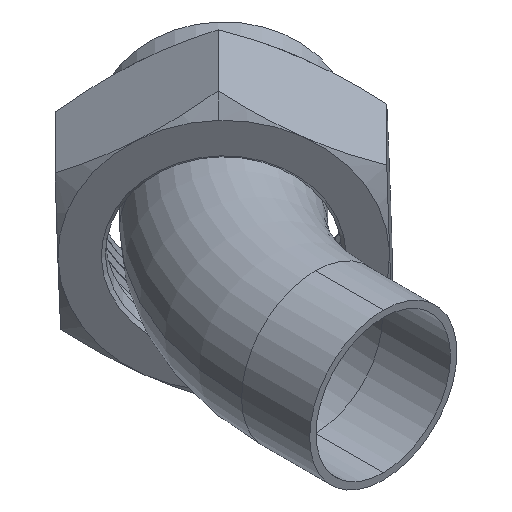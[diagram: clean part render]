
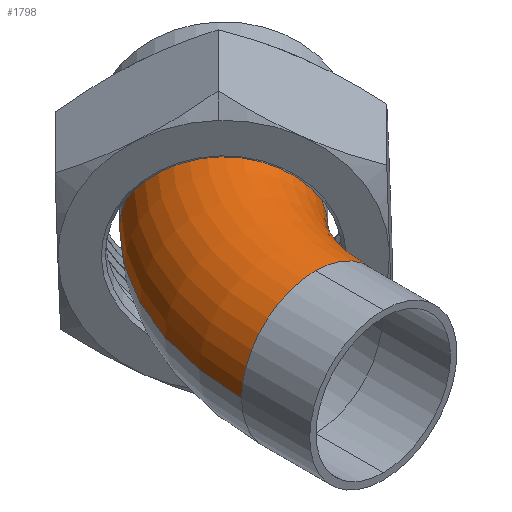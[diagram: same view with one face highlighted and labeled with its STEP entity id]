
A CAD part, isometric view. The second image highlights one B-rep face of the part: STEP entity #1798.
In plain terms, the highlighted toroidal (fillet/blend) face has major radius 57.15 mm and minor radius 19.05 mm.
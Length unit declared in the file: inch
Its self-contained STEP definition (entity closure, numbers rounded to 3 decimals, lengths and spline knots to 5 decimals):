
#40 = DIRECTION ( 'NONE',  ( 0., 1., 0. ) ) ;
#75 = ORIENTED_EDGE ( 'NONE', *, *, #999, .T. ) ;
#119 = DIRECTION ( 'NONE',  ( 0., 0., 1. ) ) ;
#167 = CARTESIAN_POINT ( 'NONE',  ( 0.12868, 2.81434, 0. ) ) ;
#208 = DIRECTION ( 'NONE',  ( 0., 0., 1. ) ) ;
#230 = AXIS2_PLACEMENT_3D ( 'NONE', #1819, #119, #2089 ) ;
#498 = DIRECTION ( 'NONE',  ( 1., 0., 0. ) ) ;
#551 = VERTEX_POINT ( 'NONE', #2331 ) ;
#768 = CIRCLE ( 'NONE', #2455, 0.75 ) ;
#802 = EDGE_CURVE ( 'NONE', #2562, #2773, #3012, .T. ) ;
#873 = EDGE_CURVE ( 'NONE', #2562, #551, #768, .T. ) ;
#899 = CARTESIAN_POINT ( 'NONE',  ( 0., 0.69302, 0. ) ) ;
#923 = ORIENTED_EDGE ( 'NONE', *, *, #954, .T. ) ;
#934 = ORIENTED_EDGE ( 'NONE', *, *, #873, .F. ) ;
#954 = EDGE_CURVE ( 'NONE', #1582, #2579, #1262, .T. ) ;
#978 = EDGE_CURVE ( 'NONE', #551, #2579, #1163, .T. ) ;
#989 = DIRECTION ( 'NONE',  ( 0.707, 0.707, 0. ) ) ;
#996 = AXIS2_PLACEMENT_3D ( 'NONE', #1905, #208, #498 ) ;
#999 = EDGE_CURVE ( 'NONE', #2773, #1582, #2661, .T. ) ;
#1163 = CIRCLE ( 'NONE', #3396, 1.5 ) ;
#1191 = DIRECTION ( 'NONE',  ( -1., 0., 0. ) ) ;
#1262 = CIRCLE ( 'NONE', #2293, 0.75 ) ;
#1429 = FACE_OUTER_BOUND ( 'NONE', #3318, .T. ) ;
#1468 = CARTESIAN_POINT ( 'NONE',  ( 2.25, 0.69302, 0. ) ) ;
#1566 = ORIENTED_EDGE ( 'NONE', *, *, #978, .F. ) ;
#1582 = VERTEX_POINT ( 'NONE', #3533 ) ;
#1732 = CARTESIAN_POINT ( 'NONE',  ( 0., 0.69302, 0. ) ) ;
#1745 = DIRECTION ( 'NONE',  ( 1., 0., 0. ) ) ;
#1798 = ADVANCED_FACE ( 'NONE', ( #1429 ), #3557, .T. ) ;
#1819 = CARTESIAN_POINT ( 'NONE',  ( 2.25, 0.69302, 0. ) ) ;
#1825 = AXIS2_PLACEMENT_3D ( 'NONE', #899, #2864, #1191 ) ;
#1905 = CARTESIAN_POINT ( 'NONE',  ( 2.25, 0.69302, 0. ) ) ;
#2012 = DIRECTION ( 'NONE',  ( -1., 0., 0. ) ) ;
#2089 = DIRECTION ( 'NONE',  ( 1., 0., 0. ) ) ;
#2293 = AXIS2_PLACEMENT_3D ( 'NONE', #1732, #40, #2012 ) ;
#2331 = CARTESIAN_POINT ( 'NONE',  ( 1.18934, 1.75368, 0. ) ) ;
#2425 = CARTESIAN_POINT ( 'NONE',  ( 0.75, 0.69302, 0. ) ) ;
#2455 = AXIS2_PLACEMENT_3D ( 'NONE', #2669, #989, #2955 ) ;
#2562 = VERTEX_POINT ( 'NONE', #167 ) ;
#2579 = VERTEX_POINT ( 'NONE', #2425 ) ;
#2658 = CARTESIAN_POINT ( 'NONE',  ( -0.75, 0.69302, 0. ) ) ;
#2661 = CIRCLE ( 'NONE', #1825, 0.75 ) ;
#2669 = CARTESIAN_POINT ( 'NONE',  ( 0.65901, 2.28401, 0. ) ) ;
#2773 = VERTEX_POINT ( 'NONE', #2658 ) ;
#2864 = DIRECTION ( 'NONE',  ( 0., 1., 0. ) ) ;
#2955 = DIRECTION ( 'NONE',  ( -0.707, 0.707, 0. ) ) ;
#3012 = CIRCLE ( 'NONE', #230, 3. ) ;
#3318 = EDGE_LOOP ( 'NONE', ( #934, #3594, #75, #923, #1566 ) ) ;
#3396 = AXIS2_PLACEMENT_3D ( 'NONE', #1468, #3402, #1745 ) ;
#3402 = DIRECTION ( 'NONE',  ( 0., 0., 1. ) ) ;
#3533 = CARTESIAN_POINT ( 'NONE',  ( 0., 0.69302, 0.75 ) ) ;
#3557 = TOROIDAL_SURFACE ( 'NONE', #996, 2.25, 0.75 ) ;
#3594 = ORIENTED_EDGE ( 'NONE', *, *, #802, .T. ) ;
